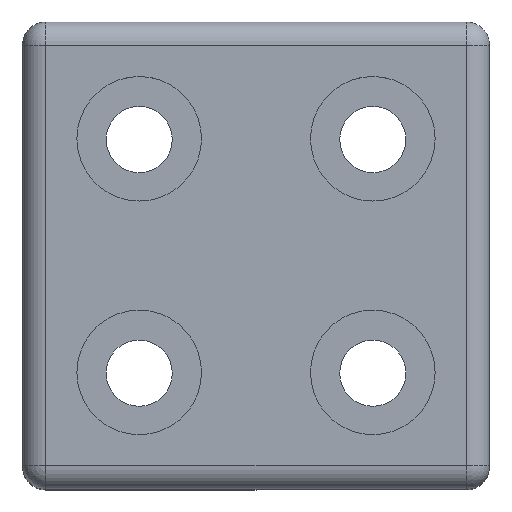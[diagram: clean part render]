
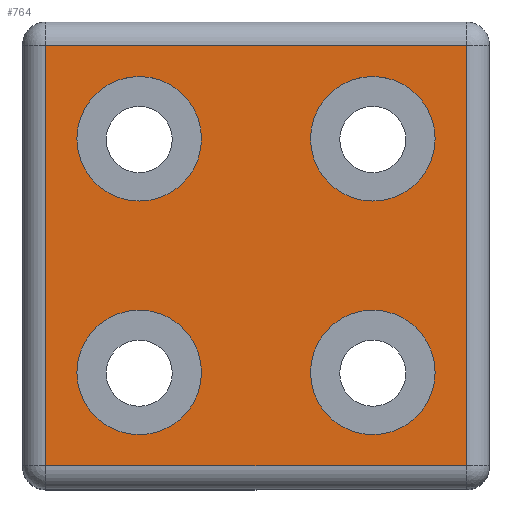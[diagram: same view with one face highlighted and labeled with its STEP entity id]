
A CAD part, top view. The second image highlights one B-rep face of the part: STEP entity #764.
In plain terms, the highlighted planar face has unit normal (0, 0, 1).
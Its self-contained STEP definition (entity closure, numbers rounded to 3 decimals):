
#4 = EDGE_CURVE ( 'NONE', #309, #701, #292, .T. ) ;
#7 = ORIENTED_EDGE ( 'NONE', *, *, #781, .T. ) ;
#35 = AXIS2_PLACEMENT_3D ( 'NONE', #639, #1262, #955 ) ;
#49 = DIRECTION ( 'NONE',  ( 0., 0., 1. ) ) ;
#59 = FACE_BOUND ( 'NONE', #400, .T. ) ;
#63 = DIRECTION ( 'NONE',  ( 1., 0., 0. ) ) ;
#88 = VERTEX_POINT ( 'NONE', #703 ) ;
#93 = FACE_BOUND ( 'NONE', #393, .T. ) ;
#138 = EDGE_CURVE ( 'NONE', #628, #691, #1224, .T. ) ;
#146 = CARTESIAN_POINT ( 'NONE',  ( -15., 15., 3. ) ) ;
#157 = CARTESIAN_POINT ( 'NONE',  ( 15., -15., 3. ) ) ;
#166 = CIRCLE ( 'NONE', #847, 8. ) ;
#173 = ORIENTED_EDGE ( 'NONE', *, *, #638, .F. ) ;
#178 = CARTESIAN_POINT ( 'NONE',  ( 15., -15., 3. ) ) ;
#193 = PLANE ( 'NONE',  #257 ) ;
#219 = LINE ( 'NONE', #940, #1041 ) ;
#244 = AXIS2_PLACEMENT_3D ( 'NONE', #249, #49, #1204 ) ;
#249 = CARTESIAN_POINT ( 'NONE',  ( -15., -15., 3. ) ) ;
#257 = AXIS2_PLACEMENT_3D ( 'NONE', #897, #838, #721 ) ;
#269 = DIRECTION ( 'NONE',  ( 1., 0., 0. ) ) ;
#274 = DIRECTION ( 'NONE',  ( 0., 1., 0. ) ) ;
#292 = CIRCLE ( 'NONE', #244, 8. ) ;
#298 = DIRECTION ( 'NONE',  ( 0., 0., 1. ) ) ;
#302 = DIRECTION ( 'NONE',  ( 0., -1., 0. ) ) ;
#309 = VERTEX_POINT ( 'NONE', #1242 ) ;
#332 = ORIENTED_EDGE ( 'NONE', *, *, #365, .F. ) ;
#347 = FACE_OUTER_BOUND ( 'NONE', #412, .T. ) ;
#365 = EDGE_CURVE ( 'NONE', #691, #628, #502, .T. ) ;
#378 = DIRECTION ( 'NONE',  ( 0., 0., 1. ) ) ;
#384 = CARTESIAN_POINT ( 'NONE',  ( 15., 15., 3. ) ) ;
#389 = EDGE_CURVE ( 'NONE', #680, #1149, #166, .T. ) ;
#393 = EDGE_LOOP ( 'NONE', ( #173, #504 ) ) ;
#400 = EDGE_LOOP ( 'NONE', ( #846, #1151 ) ) ;
#409 = CARTESIAN_POINT ( 'NONE',  ( 15., 15., 3. ) ) ;
#412 = EDGE_LOOP ( 'NONE', ( #1265, #7, #1289, #877 ) ) ;
#445 = CARTESIAN_POINT ( 'NONE',  ( 27., -27., 3. ) ) ;
#451 = VERTEX_POINT ( 'NONE', #1075 ) ;
#500 = DIRECTION ( 'NONE',  ( 0., 0., 1. ) ) ;
#502 = CIRCLE ( 'NONE', #697, 8. ) ;
#504 = ORIENTED_EDGE ( 'NONE', *, *, #1047, .F. ) ;
#514 = LINE ( 'NONE', #1162, #757 ) ;
#519 = AXIS2_PLACEMENT_3D ( 'NONE', #409, #1145, #735 ) ;
#533 = VECTOR ( 'NONE', #1195, 1000. ) ;
#539 = EDGE_CURVE ( 'NONE', #1149, #680, #1133, .T. ) ;
#628 = VERTEX_POINT ( 'NONE', #1258 ) ;
#629 = FACE_BOUND ( 'NONE', #956, .T. ) ;
#638 = EDGE_CURVE ( 'NONE', #708, #451, #1043, .T. ) ;
#639 = CARTESIAN_POINT ( 'NONE',  ( -15., 15., 3. ) ) ;
#662 = FACE_BOUND ( 'NONE', #1055, .T. ) ;
#680 = VERTEX_POINT ( 'NONE', #693 ) ;
#691 = VERTEX_POINT ( 'NONE', #801 ) ;
#693 = CARTESIAN_POINT ( 'NONE',  ( 7., 15., 3. ) ) ;
#697 = AXIS2_PLACEMENT_3D ( 'NONE', #157, #808, #63 ) ;
#701 = VERTEX_POINT ( 'NONE', #1225 ) ;
#703 = CARTESIAN_POINT ( 'NONE',  ( -27., -27., 3. ) ) ;
#708 = VERTEX_POINT ( 'NONE', #916 ) ;
#721 = DIRECTION ( 'NONE',  ( 1., 0., 0. ) ) ;
#731 = CARTESIAN_POINT ( 'NONE',  ( 23., 15., 3. ) ) ;
#735 = DIRECTION ( 'NONE',  ( 1., 0., 0. ) ) ;
#757 = VECTOR ( 'NONE', #1158, 1000. ) ;
#764 = ADVANCED_FACE ( 'NONE', ( #347, #93, #629, #662, #59 ), #193, .T. ) ;
#781 = EDGE_CURVE ( 'NONE', #88, #891, #1086, .T. ) ;
#801 = CARTESIAN_POINT ( 'NONE',  ( 23., -15., 3. ) ) ;
#808 = DIRECTION ( 'NONE',  ( 0., 0., 1. ) ) ;
#812 = CARTESIAN_POINT ( 'NONE',  ( 27., 30., 3. ) ) ;
#823 = VECTOR ( 'NONE', #274, 1000. ) ;
#838 = DIRECTION ( 'NONE',  ( 0., 0., 1. ) ) ;
#846 = ORIENTED_EDGE ( 'NONE', *, *, #4, .F. ) ;
#847 = AXIS2_PLACEMENT_3D ( 'NONE', #384, #1018, #269 ) ;
#860 = ORIENTED_EDGE ( 'NONE', *, *, #389, .F. ) ;
#874 = AXIS2_PLACEMENT_3D ( 'NONE', #178, #298, #1042 ) ;
#876 = ORIENTED_EDGE ( 'NONE', *, *, #138, .F. ) ;
#877 = ORIENTED_EDGE ( 'NONE', *, *, #1027, .T. ) ;
#891 = VERTEX_POINT ( 'NONE', #445 ) ;
#897 = CARTESIAN_POINT ( 'NONE',  ( 0., 0., 3. ) ) ;
#899 = AXIS2_PLACEMENT_3D ( 'NONE', #1122, #500, #1227 ) ;
#916 = CARTESIAN_POINT ( 'NONE',  ( -7., 15., 3. ) ) ;
#920 = DIRECTION ( 'NONE',  ( 1., 0., 0. ) ) ;
#937 = AXIS2_PLACEMENT_3D ( 'NONE', #146, #378, #920 ) ;
#940 = CARTESIAN_POINT ( 'NONE',  ( -27., -30., 3. ) ) ;
#955 = DIRECTION ( 'NONE',  ( 1., 0., 0. ) ) ;
#956 = EDGE_LOOP ( 'NONE', ( #1253, #860 ) ) ;
#992 = EDGE_CURVE ( 'NONE', #891, #1117, #1345, .T. ) ;
#1018 = DIRECTION ( 'NONE',  ( 0., 0., 1. ) ) ;
#1027 = EDGE_CURVE ( 'NONE', #1117, #1040, #514, .T. ) ;
#1039 = CIRCLE ( 'NONE', #35, 8. ) ;
#1040 = VERTEX_POINT ( 'NONE', #1268 ) ;
#1041 = VECTOR ( 'NONE', #302, 1000. ) ;
#1042 = DIRECTION ( 'NONE',  ( 1., 0., 0. ) ) ;
#1043 = CIRCLE ( 'NONE', #937, 8. ) ;
#1047 = EDGE_CURVE ( 'NONE', #451, #708, #1039, .T. ) ;
#1055 = EDGE_LOOP ( 'NONE', ( #332, #876 ) ) ;
#1075 = CARTESIAN_POINT ( 'NONE',  ( -23., 15., 3. ) ) ;
#1086 = LINE ( 'NONE', #1205, #533 ) ;
#1117 = VERTEX_POINT ( 'NONE', #1186 ) ;
#1122 = CARTESIAN_POINT ( 'NONE',  ( -15., -15., 3. ) ) ;
#1133 = CIRCLE ( 'NONE', #519, 8. ) ;
#1145 = DIRECTION ( 'NONE',  ( 0., 0., 1. ) ) ;
#1149 = VERTEX_POINT ( 'NONE', #731 ) ;
#1151 = ORIENTED_EDGE ( 'NONE', *, *, #1187, .F. ) ;
#1158 = DIRECTION ( 'NONE',  ( -1., 0., 0. ) ) ;
#1162 = CARTESIAN_POINT ( 'NONE',  ( -30., 27., 3. ) ) ;
#1186 = CARTESIAN_POINT ( 'NONE',  ( 27., 27., 3. ) ) ;
#1187 = EDGE_CURVE ( 'NONE', #701, #309, #1314, .T. ) ;
#1195 = DIRECTION ( 'NONE',  ( 1., 0., 0. ) ) ;
#1201 = EDGE_CURVE ( 'NONE', #1040, #88, #219, .T. ) ;
#1204 = DIRECTION ( 'NONE',  ( 1., 0., 0. ) ) ;
#1205 = CARTESIAN_POINT ( 'NONE',  ( 30., -27., 3. ) ) ;
#1224 = CIRCLE ( 'NONE', #874, 8. ) ;
#1225 = CARTESIAN_POINT ( 'NONE',  ( -23., -15., 3. ) ) ;
#1227 = DIRECTION ( 'NONE',  ( 1., 0., 0. ) ) ;
#1242 = CARTESIAN_POINT ( 'NONE',  ( -7., -15., 3. ) ) ;
#1253 = ORIENTED_EDGE ( 'NONE', *, *, #539, .F. ) ;
#1258 = CARTESIAN_POINT ( 'NONE',  ( 7., -15., 3. ) ) ;
#1262 = DIRECTION ( 'NONE',  ( 0., 0., 1. ) ) ;
#1265 = ORIENTED_EDGE ( 'NONE', *, *, #1201, .T. ) ;
#1268 = CARTESIAN_POINT ( 'NONE',  ( -27., 27., 3. ) ) ;
#1289 = ORIENTED_EDGE ( 'NONE', *, *, #992, .T. ) ;
#1314 = CIRCLE ( 'NONE', #899, 8. ) ;
#1345 = LINE ( 'NONE', #812, #823 ) ;
